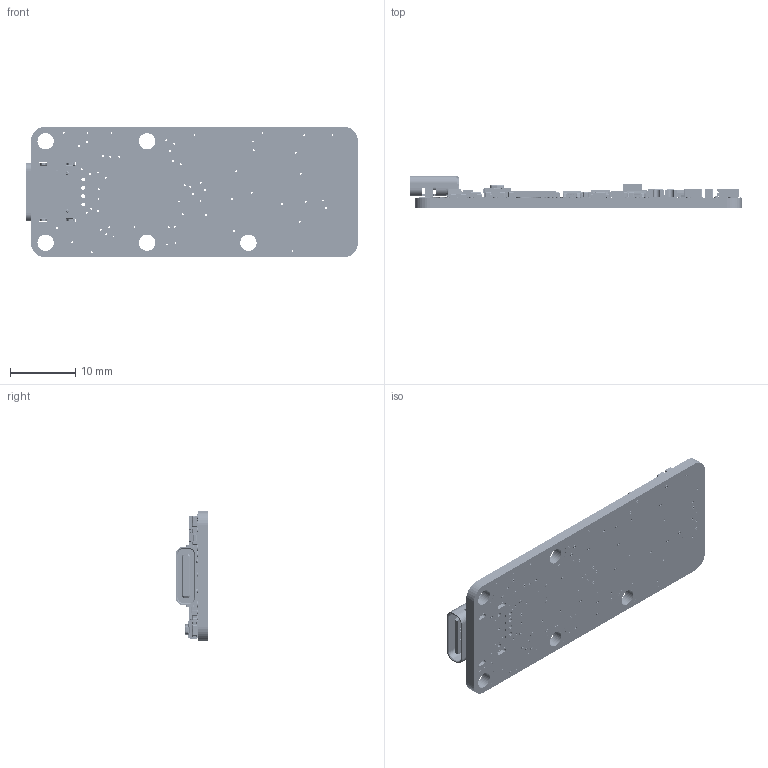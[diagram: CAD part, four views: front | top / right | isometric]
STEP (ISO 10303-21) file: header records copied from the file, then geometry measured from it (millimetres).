
FILE_DESCRIPTION (( 'STEP AP214' ), '1' );
FILE_NAME ('EPAPER1C.step', '2026-06-19T09:25:28', ( '' ), ( '' ), 'SwSTEP 2.0', 'SolidWorks 2008', '' );
FILE_SCHEMA (( 'AUTOMOTIVE_DESIGN' ));
Length unit declared in the file: millimetre
Products named in the file (38): C16; C18; C19; PCB; C1; D9; CPU1; YLED; C29; R23; D3; EPAPER1C; YBUTTON; P1; R28; FRAM1; R5; R18; USB1; R16; C24; I2; R15; iSENSE; R13; TEMP1; T3; T2; R12; R6; R11; R9; FLASH1; C20; R8; R1; REG2; C30
Assembly tree (69 placements, depth 2):
  EPAPER1C
    C29  x12
    D3  x3
    C19  x2
    R9
    R6  x2
    C30  x9
    R18  x2
    R11  x2
    T2
    TEMP1
    FRAM1
    C20
    C18  x2
    R1
    R5  x2
    D9
    T3  x2
    R28
    R23  x3
    C24  x2
    C16
    REG2  x2
    YLED
    R16
    iSENSE
    PCB
    R15
    CPU1
    P1
    USB1
    FLASH1
    C1
    R13
    R12
    I2
    R8
    YBUTTON
Bounding box: 50.75 x 5 x 20 mm (x, y, z)
Volume: 1965.3 mm3; surface area: 4201.4 mm2
Topology: 72 solids, 73 shells, 10297 faces, 27157 edges, 17532 vertices
Faces by surface type: plane 6539, cylinder 2472, bspline 1027, sphere 240, cone 12, torus 7
Entity records: 399831 total; most frequent: CARTESIAN_POINT 101426, ORIENTED_EDGE 45792, DIRECTION 40554, EDGE_CURVE 22896, VECTOR 17070, LINE 17070, VERTEX_POINT 15114, AXIS2_PLACEMENT_3D 11742
